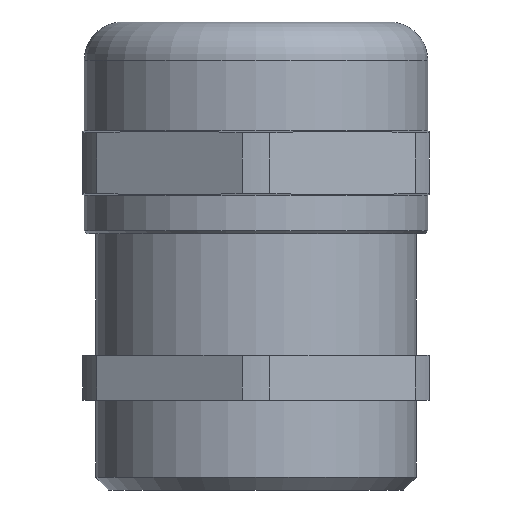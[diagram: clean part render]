
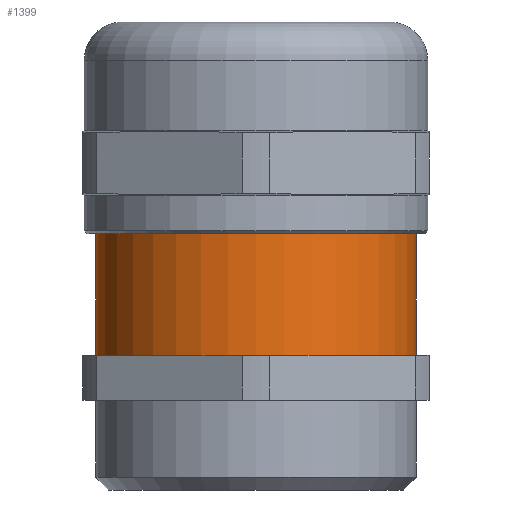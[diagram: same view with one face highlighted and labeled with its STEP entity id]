
A CAD part, front view. The second image highlights one B-rep face of the part: STEP entity #1399.
In plain terms, the highlighted cylindrical face has radius 12.5 mm (diameter 25 mm), a partial arc.
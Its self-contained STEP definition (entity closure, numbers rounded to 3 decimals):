
#849 = DIRECTION ( 'NONE',  ( -1., 0., 0. ) ) ;
#850 = DIRECTION ( 'NONE',  ( 0., 0., -1. ) ) ;
#851 = CARTESIAN_POINT ( 'NONE',  ( 0., 0., 20. ) ) ;
#852 = AXIS2_PLACEMENT_3D ( 'NONE', #851, #850, #849 ) ;
#853 = CIRCLE ( 'NONE', #852, 12.5 ) ;
#883 = DIRECTION ( 'NONE',  ( -1., 0., 0. ) ) ;
#884 = DIRECTION ( 'NONE',  ( 0., 0., -1. ) ) ;
#885 = CARTESIAN_POINT ( 'NONE',  ( 0., 0., 0. ) ) ;
#886 = AXIS2_PLACEMENT_3D ( 'NONE', #885, #884, #883 ) ;
#887 = CYLINDRICAL_SURFACE ( 'NONE', #886, 12.5 ) ;
#888 = FACE_OUTER_BOUND ( 'NONE', #1392, .T. ) ;
#904 = DIRECTION ( 'NONE',  ( -1., 0., 0. ) ) ;
#905 = DIRECTION ( 'NONE',  ( 0., 0., -1. ) ) ;
#906 = CARTESIAN_POINT ( 'NONE',  ( 0., 0., 10.5 ) ) ;
#907 = AXIS2_PLACEMENT_3D ( 'NONE', #906, #905, #904 ) ;
#908 = CIRCLE ( 'NONE', #907, 12.5 ) ;
#1043 = EDGE_CURVE ( 'NONE', #1053, #1063, #2359, .T. ) ;
#1053 = VERTEX_POINT ( 'NONE', #2348 ) ;
#1061 = VERTEX_POINT ( 'NONE', #2319 ) ;
#1063 = VERTEX_POINT ( 'NONE', #2318 ) ;
#1069 = EDGE_CURVE ( 'NONE', #1061, #1109, #2180, .T. ) ;
#1109 = VERTEX_POINT ( 'NONE', #2258 ) ;
#1391 = EDGE_CURVE ( 'NONE', #1109, #1063, #908, .T. ) ;
#1392 = EDGE_LOOP ( 'NONE', ( #1400, #1401, #1428, #1429 ) ) ;
#1399 = ADVANCED_FACE ( 'NONE', ( #888 ), #887, .T. ) ;
#1400 = ORIENTED_EDGE ( 'NONE', *, *, #1069, .F. ) ;
#1401 = ORIENTED_EDGE ( 'NONE', *, *, #1427, .T. ) ;
#1427 = EDGE_CURVE ( 'NONE', #1061, #1053, #853, .T. ) ;
#1428 = ORIENTED_EDGE ( 'NONE', *, *, #1043, .T. ) ;
#1429 = ORIENTED_EDGE ( 'NONE', *, *, #1391, .F. ) ;
#2177 = DIRECTION ( 'NONE',  ( 0., 0., -1. ) ) ;
#2178 = VECTOR ( 'NONE', #2177, 1000. ) ;
#2179 = CARTESIAN_POINT ( 'NONE',  ( 12.5, 0., 0. ) ) ;
#2180 = LINE ( 'NONE', #2179, #2178 ) ;
#2258 = CARTESIAN_POINT ( 'NONE',  ( 12.5, 0., 10.5 ) ) ;
#2318 = CARTESIAN_POINT ( 'NONE',  ( -12.5, 0., 10.5 ) ) ;
#2319 = CARTESIAN_POINT ( 'NONE',  ( 12.5, 0., 20. ) ) ;
#2348 = CARTESIAN_POINT ( 'NONE',  ( -12.5, 0., 20. ) ) ;
#2356 = DIRECTION ( 'NONE',  ( 0., 0., -1. ) ) ;
#2357 = VECTOR ( 'NONE', #2356, 1000. ) ;
#2358 = CARTESIAN_POINT ( 'NONE',  ( -12.5, 0., 0. ) ) ;
#2359 = LINE ( 'NONE', #2358, #2357 ) ;
